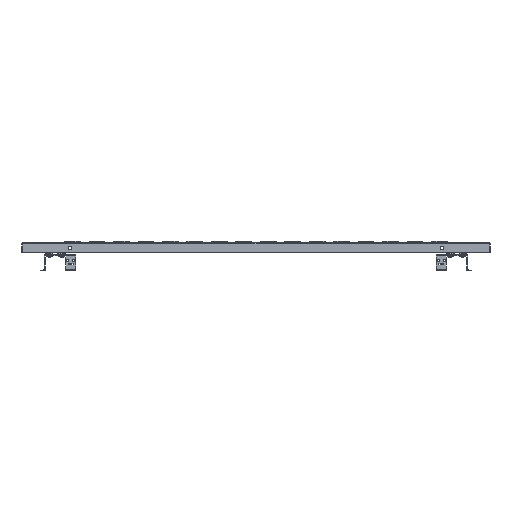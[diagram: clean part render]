
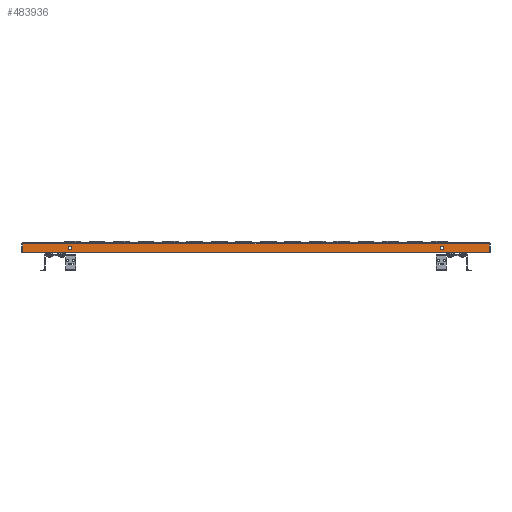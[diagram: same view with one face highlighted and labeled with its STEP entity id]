
A CAD part, front view. The second image highlights one B-rep face of the part: STEP entity #483936.
In plain terms, the highlighted planar face has unit normal (0, -1, 0).
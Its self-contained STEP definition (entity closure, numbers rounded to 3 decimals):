
#453156=CARTESIAN_POINT(' ',(495.25,-37.5,-2.1));
#453157=VERTEX_POINT(' ',#453156);
#453706=CARTESIAN_POINT(' ',(-495.25,-37.5,-2.1));
#453707=VERTEX_POINT(' ',#453706);
#468286=CARTESIAN_POINT(' ',(-495.25,-37.5,-2.1));
#468291=DIRECTION(' ',(1.,0.,0.));
#468296=VECTOR(' ',#468291,1.);
#468301=LINE('',#468286,#468296);
#468306=EDGE_CURVE(' ',#453707,#453157,#468301,.T.);
#468361=CARTESIAN_POINT(' ',(495.25,-37.5,-2.1));
#468366=DIRECTION(' ',(0.,0.,-1.));
#468371=VECTOR(' ',#468366,1.);
#468376=LINE('',#468361,#468371);
#468381=CARTESIAN_POINT(' ',(495.25,-37.5,-20.));
#468382=VERTEX_POINT(' ',#468381);
#468386=EDGE_CURVE(' ',#453157,#468382,#468376,.T.);
#468486=CARTESIAN_POINT(' ',(-495.25,-37.5,-20.));
#468491=DIRECTION(' ',(1.,0.,0.));
#468496=VECTOR(' ',#468491,1.);
#468501=LINE('',#468486,#468496);
#468506=CARTESIAN_POINT(' ',(-495.25,-37.5,-20.));
#468507=VERTEX_POINT(' ',#468506);
#468511=EDGE_CURVE(' ',#468507,#468382,#468501,.T.);
#468591=CARTESIAN_POINT(' ',(-495.25,-37.5,-2.1));
#468596=DIRECTION(' ',(0.,0.,-1.));
#468601=VECTOR(' ',#468596,1.);
#468606=LINE('',#468591,#468601);
#468611=EDGE_CURVE(' ',#453707,#468507,#468606,.T.);
#468701=CARTESIAN_POINT(' ',(-395.,-37.5,-7.));
#468702=VERTEX_POINT(' ',#468701);
#468716=CARTESIAN_POINT(' ',(-395.,-37.5,-11.));
#468721=DIRECTION(' ',(0.,1.,0.));
#468726=DIRECTION(' ',(0.,0.,-1.));
#468731=AXIS2_PLACEMENT_3D(' ',#468716,#468721,#468726);
#468736=CIRCLE('',#468731,4.);
#468741=CARTESIAN_POINT(' ',(-395.,-37.5,-15.));
#468742=VERTEX_POINT(' ',#468741);
#468746=EDGE_CURVE(' ',#468742,#468702,#468736,.T.);
#468841=CARTESIAN_POINT(' ',(-395.,-37.5,-11.));
#468846=DIRECTION(' ',(0.,1.,0.));
#468851=DIRECTION(' ',(0.,0.,1.));
#468856=AXIS2_PLACEMENT_3D(' ',#468841,#468846,#468851);
#468861=CIRCLE('',#468856,4.);
#468866=EDGE_CURVE(' ',#468702,#468742,#468861,.T.);
#468941=CARTESIAN_POINT(' ',(395.,-37.5,-7.));
#468942=VERTEX_POINT(' ',#468941);
#468956=CARTESIAN_POINT(' ',(395.,-37.5,-11.));
#468961=DIRECTION(' ',(0.,1.,0.));
#468966=DIRECTION(' ',(0.,0.,-1.));
#468971=AXIS2_PLACEMENT_3D(' ',#468956,#468961,#468966);
#468976=CIRCLE('',#468971,4.);
#468981=CARTESIAN_POINT(' ',(395.,-37.5,-15.));
#468982=VERTEX_POINT(' ',#468981);
#468986=EDGE_CURVE(' ',#468982,#468942,#468976,.T.);
#469081=CARTESIAN_POINT(' ',(395.,-37.5,-11.));
#469086=DIRECTION(' ',(0.,1.,0.));
#469091=DIRECTION(' ',(0.,0.,1.));
#469096=AXIS2_PLACEMENT_3D(' ',#469081,#469086,#469091);
#469101=CIRCLE('',#469096,4.);
#469106=EDGE_CURVE(' ',#468942,#468982,#469101,.T.);
#483841=DIRECTION(' ',(0.,-1.,0.));
#483846=CARTESIAN_POINT(' ',(-495.25,-37.5,-20.));
#483851=DIRECTION(' ',(1.,0.,0.));
#483856=AXIS2_PLACEMENT_3D(' ',#483846,#483841,#483851);
#483861=PLANE('NONE',#483856);
#483866=ORIENTED_EDGE(' ',*,*,#468306,.F.);
#483871=ORIENTED_EDGE(' ',*,*,#468611,.T.);
#483876=ORIENTED_EDGE(' ',*,*,#468511,.T.);
#483881=ORIENTED_EDGE(' ',*,*,#468386,.F.);
#483886=EDGE_LOOP(' ',(#483866,#483871,#483876,#483881));
#483891=FACE_OUTER_BOUND(' ',#483886,.T.);
#483896=ORIENTED_EDGE(' ',*,*,#468746,.T.);
#483901=ORIENTED_EDGE(' ',*,*,#468866,.T.);
#483906=EDGE_LOOP(' ',(#483896,#483901));
#483911=FACE_BOUND(' ',#483906,.T.);
#483916=ORIENTED_EDGE(' ',*,*,#468986,.T.);
#483921=ORIENTED_EDGE(' ',*,*,#469106,.T.);
#483926=EDGE_LOOP(' ',(#483916,#483921));
#483931=FACE_BOUND(' ',#483926,.T.);
#483936=ADVANCED_FACE('NONE',(#483891,#483911,#483931),#483861,.T.);
